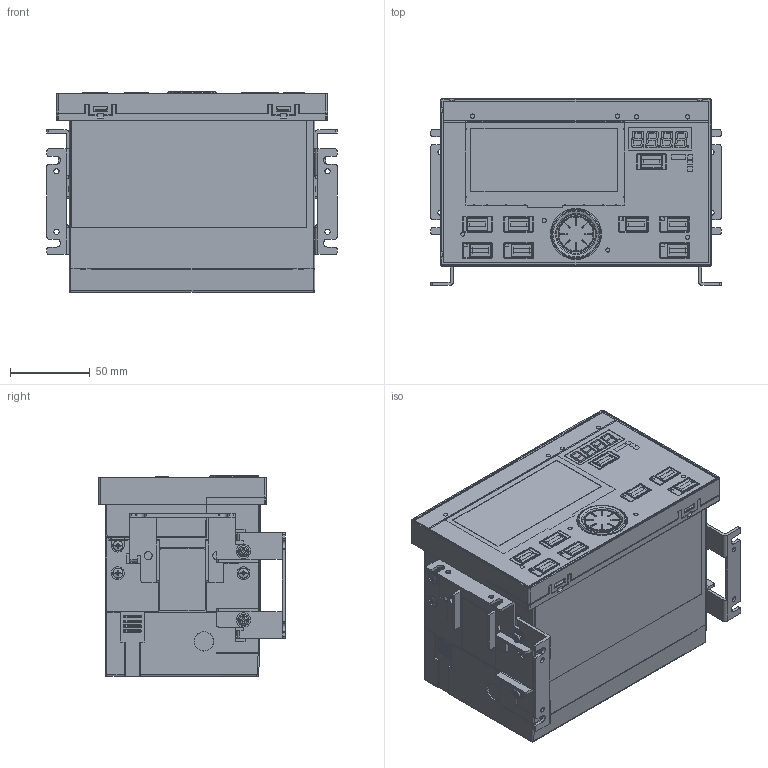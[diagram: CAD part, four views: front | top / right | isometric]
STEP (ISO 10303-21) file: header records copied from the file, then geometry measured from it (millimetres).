
FILE_DESCRIPTION((''),'2;1');
FILE_NAME('LE7-40GU','2018-04-02T',('XL43828'),(''),'PRO/ENGINEER BY PARAMETRIC TECHNOLOGY CORPORATION, 2014310','PRO/ENGINEER BY PARAMETRIC TECHNOLOGY CORPORATION, 2014310','');
FILE_SCHEMA(('CONFIG_CONTROL_DESIGN'));
Products named in the file (1): LE7-40GU
Bounding box: 182 x 117 x 126 mm (x, y, z)
Volume: 1962332.7 mm3; surface area: 206404.6 mm2
Topology: 9 solids, 36 shells, 3879 faces, 9766 edges, 6032 vertices
Faces by surface type: plane 2123, cylinder 836, bspline 564, cone 180, sphere 152, torus 24
Entity records: 132623 total; most frequent: CARTESIAN_POINT 43616, ORIENTED_EDGE 19452, DIRECTION 16614, EDGE_CURVE 9726, VERTEX_POINT 6222, VECTOR 6060, LINE 6060, AXIS2_PLACEMENT_3D 5277
